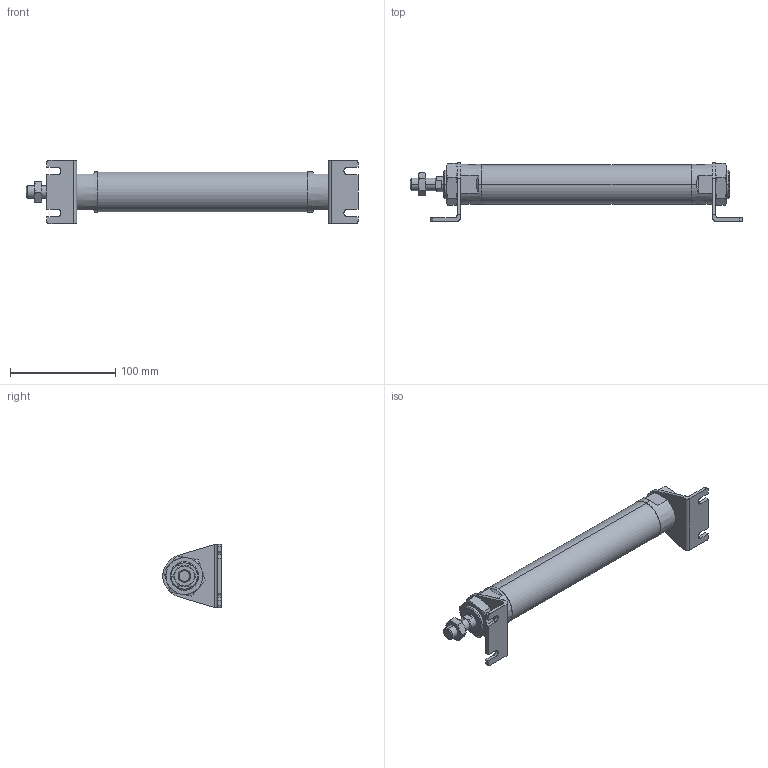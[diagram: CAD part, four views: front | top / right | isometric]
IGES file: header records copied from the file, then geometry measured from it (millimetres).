
Start section: SolidWorks IGES file using analytic representation for surfaces
Global section: file name: C:\Users\Toshiba\Desktop\J#2-32-150-L.IGS; native system: SolidWorks 2014; preprocessor: SolidWorks 2014; author: Toshiba; date: 160310.090053; units: millimetre
Bounding box: 315.2 x 55.5 x 60 mm (x, y, z)
Surface area: 58007.4 mm2 (no closed solid volume)
Topology: 0 solids, 0 shells, 170 faces, 2728 edges, 2724 vertices
Faces by surface type: bspline 107, revolution 63
